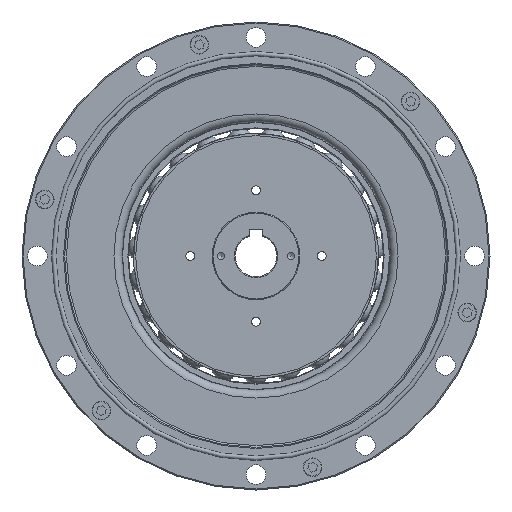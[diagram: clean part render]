
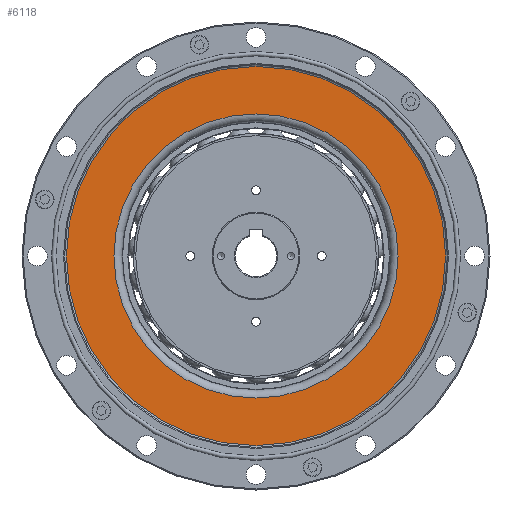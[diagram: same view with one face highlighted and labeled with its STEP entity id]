
A CAD part, left-side view. The second image highlights one B-rep face of the part: STEP entity #6118.
In plain terms, the highlighted planar face has unit normal (-1, 0, 0).
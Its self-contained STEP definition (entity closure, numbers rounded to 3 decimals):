
#281 = FACE_OUTER_BOUND ( 'NONE', #11273, .T. ) ;
#1202 = AXIS2_PLACEMENT_3D ( 'NONE', #11163, #10923, #10882 ) ;
#2042 = CIRCLE ( 'NONE', #7562, 86.7 ) ;
#2074 = ORIENTED_EDGE ( 'NONE', *, *, #4774, .F. ) ;
#3227 = EDGE_LOOP ( 'NONE', ( #2074 ) ) ;
#3638 = VERTEX_POINT ( 'NONE', #12819 ) ;
#3649 = FACE_BOUND ( 'NONE', #3227, .T. ) ;
#4774 = EDGE_CURVE ( 'NONE', #5592, #5592, #5637, .T. ) ;
#5177 = DIRECTION ( 'NONE',  ( 0., -1., 0. ) ) ;
#5323 = DIRECTION ( 'NONE',  ( -1., 0., 0. ) ) ;
#5368 = CARTESIAN_POINT ( 'NONE',  ( 10.247, 0., 0. ) ) ;
#5592 = VERTEX_POINT ( 'NONE', #12058 ) ;
#5599 = DIRECTION ( 'NONE',  ( 0., -1., 0. ) ) ;
#5636 = DIRECTION ( 'NONE',  ( -1., 0., 0. ) ) ;
#5637 = CIRCLE ( 'NONE', #9068, 64.971 ) ;
#5646 = CARTESIAN_POINT ( 'NONE',  ( 10.247, 0., 0. ) ) ;
#6118 = ADVANCED_FACE ( 'NONE', ( #3649, #281 ), #11361, .F. ) ;
#7562 = AXIS2_PLACEMENT_3D ( 'NONE', #5646, #5636, #5599 ) ;
#9068 = AXIS2_PLACEMENT_3D ( 'NONE', #5368, #5323, #5177 ) ;
#10882 = DIRECTION ( 'NONE',  ( 0., 1., 0. ) ) ;
#10923 = DIRECTION ( 'NONE',  ( 1., 0., 0. ) ) ;
#11163 = CARTESIAN_POINT ( 'NONE',  ( 10.247, 0., 0. ) ) ;
#11273 = EDGE_LOOP ( 'NONE', ( #13399 ) ) ;
#11326 = EDGE_CURVE ( 'NONE', #3638, #3638, #2042, .T. ) ;
#11361 = PLANE ( 'NONE',  #1202 ) ;
#12058 = CARTESIAN_POINT ( 'NONE',  ( 10.247, -64.971, 0. ) ) ;
#12819 = CARTESIAN_POINT ( 'NONE',  ( 10.247, -86.7, 0. ) ) ;
#13399 = ORIENTED_EDGE ( 'NONE', *, *, #11326, .T. ) ;
